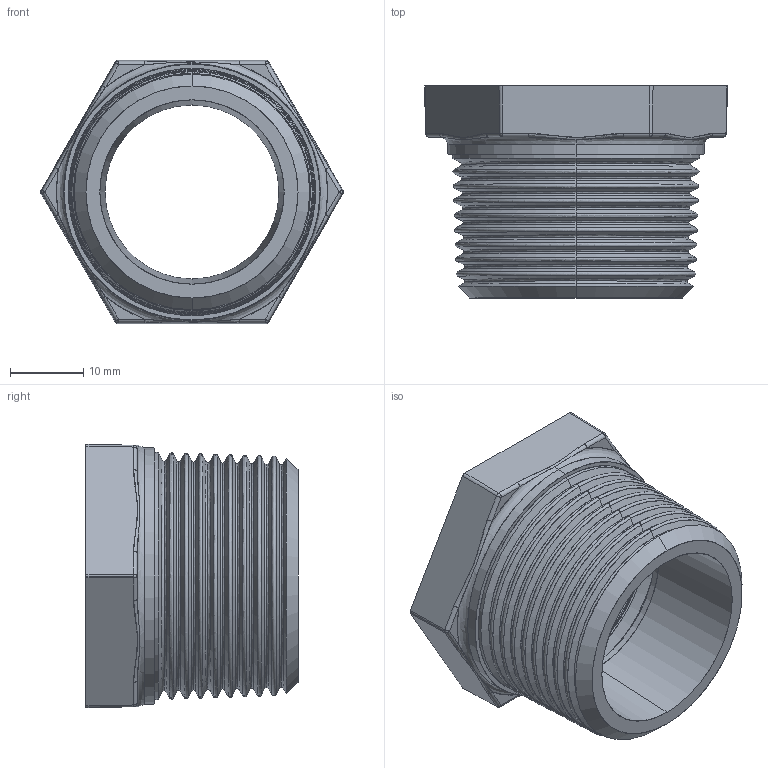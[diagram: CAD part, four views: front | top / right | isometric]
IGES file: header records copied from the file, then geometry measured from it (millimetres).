
Start section: SolidWorks IGES file using analytic representation for surfaces
Global section: file name: C:\Users\Joel Rosa\Desktop\Tubulação\12-01-OK\12-01-033.IGS; native system: SolidWorks 2011; preprocessor: SolidWorks 2011; author: Joel Rosa; date: 121203.200049; units: millimetre
Bounding box: 41.41 x 29 x 36 mm (x, y, z)
Surface area: 8465.6 mm2 (no closed solid volume)
Topology: 0 solids, 0 shells, 350 faces, 2784 edges, 2784 vertices
Faces by surface type: bspline 250, revolution 100
